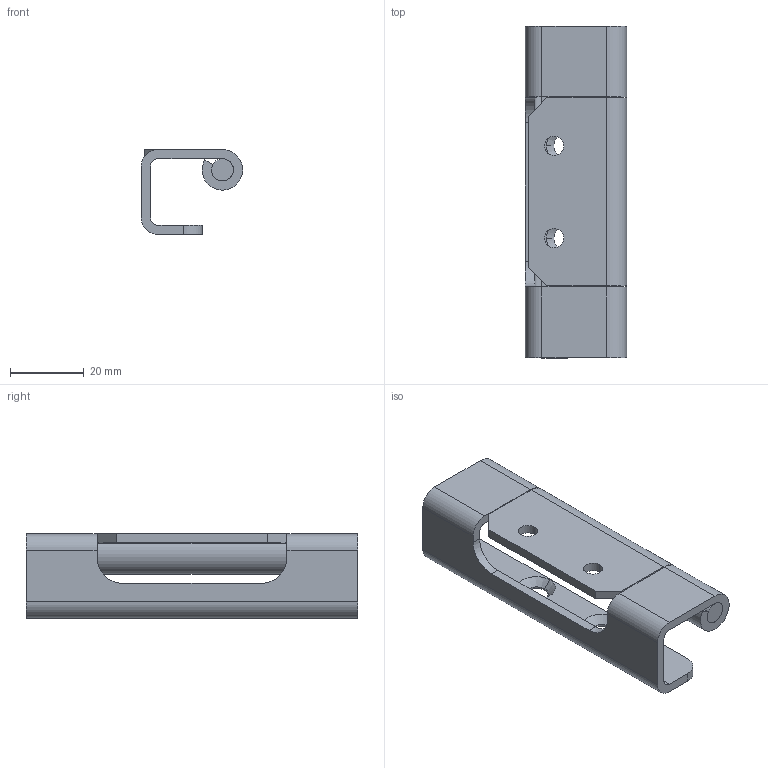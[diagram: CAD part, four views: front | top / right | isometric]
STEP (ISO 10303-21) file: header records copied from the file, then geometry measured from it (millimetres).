
FILE_DESCRIPTION(/* description */ (''),/* implementation_level */ '2;1');
FILE_NAME(/* name */ 'JL283-1',/* time_stamp */ '2024-10-09T15:49:13+08:00',/* author */ (''),/* organization */ (''),/* preprocessor_version */ 'ST-DEVELOPER v19.2',/* originating_system */ 'Rhino 8.5',/* authorisation */ '');
FILE_SCHEMA (('CONFIG_CONTROL_DESIGN'));
Length unit declared in the file: millimetre
Products named in the file (1): Document
Bounding box: 27.5 x 90 x 23 mm (x, y, z)
Volume: 17834.4 mm3; surface area: 15741.6 mm2
Topology: 3 solids, 3 shells, 58 faces, 168 edges, 124 vertices
Faces by surface type: plane 28, cylinder 26, bspline 4
Entity records: 2100 total; most frequent: CARTESIAN_POINT 711, ORIENTED_EDGE 304, DIRECTION 182, EDGE_CURVE 152, AXIS2_PLACEMENT_3D 118, VERTEX_POINT 100, B_SPLINE_CURVE_WITH_KNOTS 79, EDGE_LOOP 66
